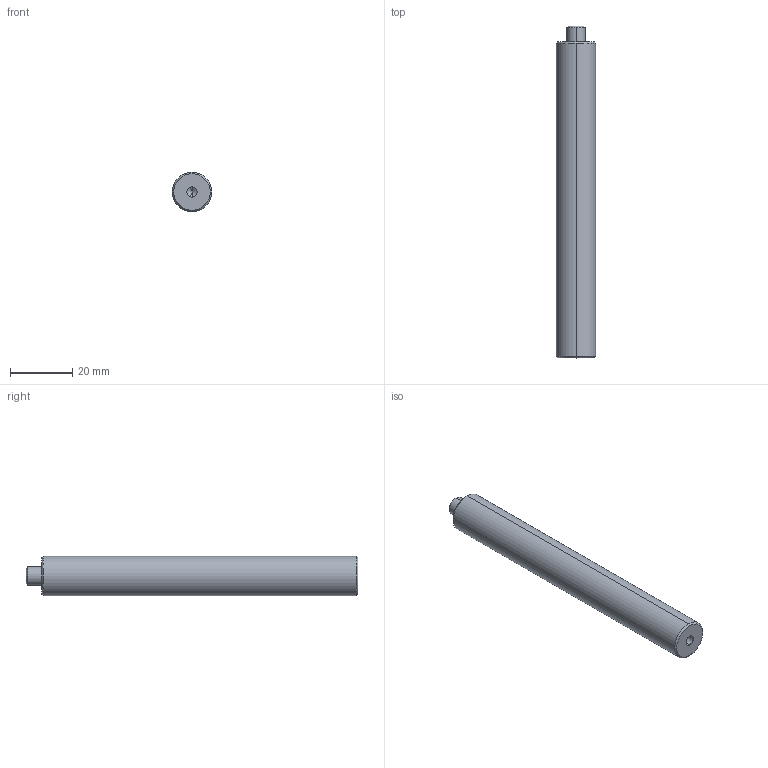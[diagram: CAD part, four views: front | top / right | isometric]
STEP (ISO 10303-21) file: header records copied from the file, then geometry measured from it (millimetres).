
FILE_DESCRIPTION (( 'STEP AP203' ), '1' );
FILE_NAME ('(STEP)M-PDJ-4.STEP', '2020-03-31T08:44:16', ( '' ), ( '' ), 'SwSTEP 2.0', 'SolidWorks 2019', '' );
FILE_SCHEMA (( 'CONFIG_CONTROL_DESIGN' ));
Length unit declared in the file: millimetre
Products named in the file (1): (STEP)M-PDJ-4
Bounding box: 12.7 x 106.6 x 12.7 mm (x, y, z)
Volume: 12910.6 mm3; surface area: 4477.5 mm2
Topology: 1 solids, 1 shells, 17 faces, 34 edges, 19 vertices
Faces by surface type: cone 8, cylinder 6, plane 3
Entity records: 505 total; most frequent: DIRECTION 86, CARTESIAN_POINT 69, ORIENTED_EDGE 64, AXIS2_PLACEMENT_3D 36, EDGE_CURVE 32, VERTEX_POINT 19, EDGE_LOOP 19, CIRCLE 18
